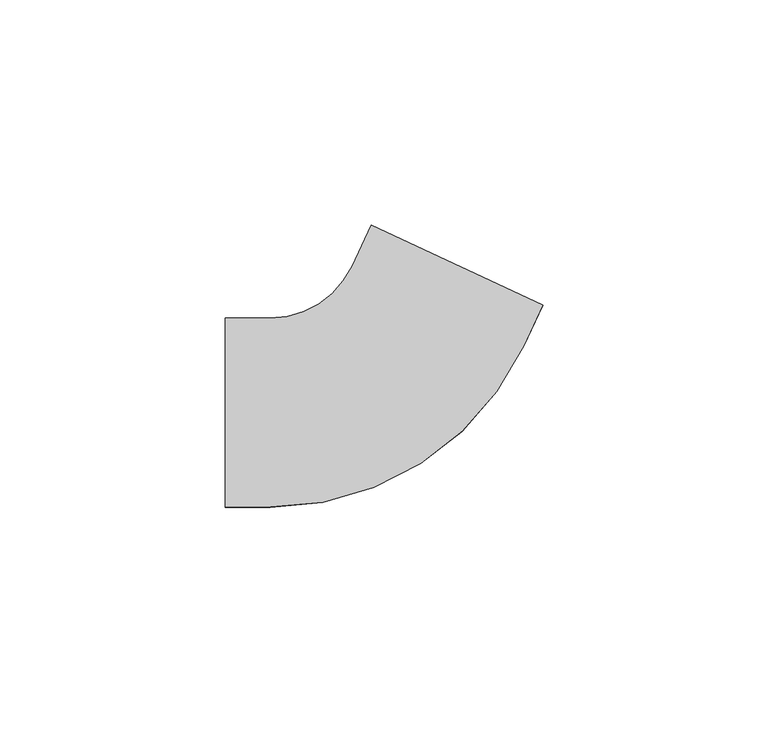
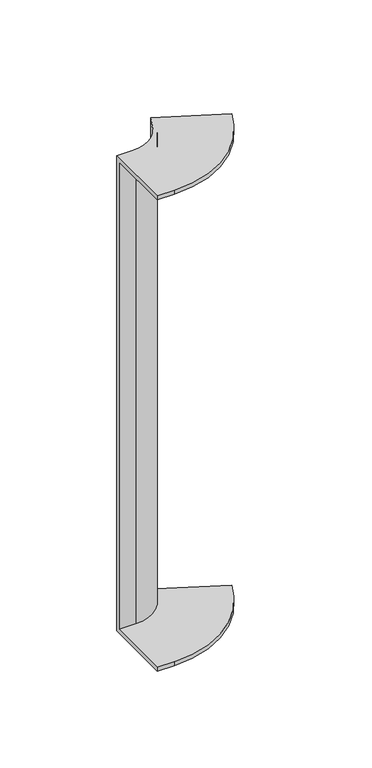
"""IFC4 building model written with IfcOpenShell, lengths in millimetres: cable carrier fitting geometry, BAKS_Articulated_connector : LGJ_H42."""

from ifc_helpers import new_model, si_unit, frame, origin, place, context, project, spatial, polyline, circle_curve, source, transform, mapped, element, save
from ifc_brep_helpers import plane_surface, cylinder_surface, revolved_surface, advanced_brep


def cable_carrier_fitting_47b1af77(model_context):
    return source(origin(), model_context, "Body", "AdvancedBrep", [
        advanced_brep(
        [(-36.1198807, -21.0, 150.0), (-36.1198807, 21.0, 150.0), (-36.1198807, 21.0, -150.0), (-36.1198807, -21.0, -150.0), (-36.1198807, -21.0, -147.46), (-36.1198807, 18.46, -147.46), (-36.1198807, 18.46, 147.46), (-36.1198807, -21.0, 147.46), (34.2973847, 23.8607456, 150.0), (34.2973847, 23.8607456, 147.46), (-1.4655206, 40.5372623, 147.46), (-1.4655206, 40.5372623, -147.46), (34.2973847, 23.8607456, -147.46), (34.2973847, 23.8607456, -150.0), (-3.7675423, 41.6107126, -150.0), (-3.7675423, 41.6107126, 150.0), (-26.1198807, -21.0, 150.0), (30.0712021, 14.7976678, 150.0), (-7.993725, 32.5476348, 150.0), (-26.1198807, 21.0, 150.0), (-26.1198807, 21.0, -150.0), (-7.993725, 32.5476348, -150.0), (30.0712021, 14.7976678, -150.0), (-26.1198807, -21.0, -150.0), (-26.1198807, -21.0, -147.46), (30.0712021, 14.7976678, -147.46), (-5.6917032, 31.4741844, -147.46), (-26.1198807, 18.46, -147.46), (-26.1198807, 18.46, 147.46), (-5.6917032, 31.4741844, 147.46), (30.0712021, 14.7976678, 147.46), (-26.1198807, -21.0, 147.46)],
        [
            (0, 1),
            (1, 2),
            (2, 3),
            (3, 4),
            (4, 5),
            (5, 6),
            (6, 7),
            (7, 0),
            (8, 9),
            (9, 10),
            (10, 11),
            (11, 12),
            (12, 13),
            (13, 14),
            (14, 15),
            (15, 8),
            (0, 16),
            (16, 17, circle_curve(frame((-26.1198807, 41.0, 150.0), z_axis=(0.0, 0.0, 1.0), x_axis=(0.0, -1.0, 0.0)), 62.0)),
            (17, 8),
            (15, 18),
            (18, 19, circle_curve(frame((-26.1198807, 41.0, 150.0), z_axis=(0.0, 0.0, -1.0), x_axis=(0.0, -1.0, 0.0)), 20.0)),
            (19, 1),
            (19, 20),
            (20, 2),
            (20, 21, circle_curve(frame((-26.1198807, 41.0, -150.0), z_axis=(0.0, 0.0, 1.0), x_axis=(0.0, -1.0, 0.0)), 20.0)),
            (21, 14),
            (13, 22),
            (22, 23, circle_curve(frame((-26.1198807, 41.0, -150.0), z_axis=(0.0, 0.0, -1.0), x_axis=(0.0, -1.0, 0.0)), 62.0)),
            (23, 3),
            (23, 24),
            (24, 4),
            (24, 25, circle_curve(frame((-26.1198807, 41.0, -147.46), z_axis=(0.0, 0.0, 1.0), x_axis=(0.0, -1.0, 0.0)), 62.0)),
            (25, 12),
            (11, 26),
            (26, 27, circle_curve(frame((-26.1198807, 41.0, -147.46), z_axis=(0.0, 0.0, -1.0), x_axis=(0.0, -1.0, 0.0)), 22.54)),
            (27, 5),
            (27, 28),
            (28, 6),
            (28, 29, circle_curve(frame((-26.1198807, 41.0, 147.46), z_axis=(0.0, 0.0, 1.0), x_axis=(0.0, -1.0, 0.0)), 22.54)),
            (29, 10),
            (9, 30),
            (30, 31, circle_curve(frame((-26.1198807, 41.0, 147.46), z_axis=(0.0, 0.0, -1.0), x_axis=(0.0, -1.0, 0.0)), 62.0)),
            (31, 7),
            (31, 16),
            (18, 21),
            (22, 25),
            (26, 29),
            (30, 17),
        ],
        [
            plane_surface(frame((-36.1198807, 0.0, 0.0), z_axis=(-1.0, 0.0, 0.0), x_axis=(0.0, 0.0, 1.0))),
            plane_surface(frame((15.2649212, 32.7357291, 0.0), z_axis=(0.42261826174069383, 0.9063077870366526, 0.0), x_axis=(0.0, 0.0, 1.0))),
            plane_surface(frame((-36.1198807, -21.0, 150.0), z_axis=(0.0, 0.0, 1.0), x_axis=(1.0, 0.0, 0.0))),
            plane_surface(frame((-36.1198807, 21.0, 150.0), z_axis=(0.0, 1.0, 0.0), x_axis=(1.0, 0.0, 0.0))),
            plane_surface(frame((-36.1198807, 21.0, -150.0), z_axis=(0.0, 0.0, -1.0), x_axis=(1.0, 0.0, 0.0))),
            plane_surface(frame((-36.1198807, -21.0, -150.0), z_axis=(0.0, -1.0, 0.0), x_axis=(1.0, 0.0, 0.0))),
            plane_surface(frame((-36.1198807, -21.0, -147.46), z_axis=(0.0, 0.0, 1.0), x_axis=(1.0, 0.0, 0.0))),
            plane_surface(frame((-36.1198807, 18.46, -147.46), z_axis=(0.0, -1.0, 0.0), x_axis=(1.0, 0.0, 0.0))),
            plane_surface(frame((-36.1198807, 18.46, 147.46), z_axis=(0.0, 0.0, -1.0), x_axis=(1.0, 0.0, 0.0))),
            plane_surface(frame((-36.1198807, -21.0, 147.46), z_axis=(0.0, -1.0, 0.0), x_axis=(1.0, 0.0, 0.0))),
            revolved_surface(polyline([(-26.1198807, 21.0, 150.0), (-26.1198807, 21.0, -150.0)]), (-26.1198807, 41.0, 0.0), (0.0, 0.0, 1.0)),
            cylinder_surface(frame((-26.1198807, 41.0, 0.0), z_axis=(0.0, 0.0, 1.0), x_axis=(0.0, -1.0, 0.0)), 62.0),
            cylinder_surface(frame((-26.1198807, 41.0, 0.0), z_axis=(0.0, 0.0, 1.0), x_axis=(0.0, -1.0, 0.0)), 22.54),
            plane_surface(frame((-7.993725, 32.5476348, 150.0), z_axis=(-0.9063077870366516, 0.4226182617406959, 0.0), x_axis=(0.4226182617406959, 0.9063077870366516, 0.0))),
            plane_surface(frame((30.0712021, 14.7976678, -150.0), z_axis=(0.9063077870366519, -0.4226182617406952, 0.0), x_axis=(0.4226182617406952, 0.9063077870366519, 0.0))),
            plane_surface(frame((-5.6917032, 31.4741844, -147.46), z_axis=(0.9063077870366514, -0.42261826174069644, 0.0), x_axis=(0.42261826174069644, 0.9063077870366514, 0.0))),
            plane_surface(frame((30.0712021, 14.7976678, 147.46), z_axis=(0.9063077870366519, -0.4226182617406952, 0.0), x_axis=(0.4226182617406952, 0.9063077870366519, 0.0))),
        ],
        [
            (0, [[1, 2, 3, 4, 5, 6, 7, 8]]),
            (1, [[9, 10, 11, 12, 13, 14, 15, 16]]),
            (2, [[-1, 17, 18, 19, -16, 20, 21, 22]]),
            (3, [[-2, -22, 23, 24]]),
            (4, [[-3, -24, 25, 26, -14, 27, 28, 29]]),
            (5, [[-4, -29, 30, 31]]),
            (6, [[-5, -31, 32, 33, -12, 34, 35, 36]]),
            (7, [[-6, -36, 37, 38]]),
            (8, [[-7, -38, 39, 40, -10, 41, 42, 43]]),
            (9, [[-8, -43, 44, -17]]),
            (10, [[-25, -23, -21, 45]]),
            (11, [[-32, -30, -28, 46]]),
            (12, [[-39, -37, -35, 47]]),
            (11, [[-18, -44, -42, 48]]),
            (13, [[-45, -20, -15, -26]]),
            (14, [[-46, -27, -13, -33]]),
            (15, [[-47, -34, -11, -40]]),
            (16, [[-48, -41, -9, -19]]),
        ],
    ),
    ])


if __name__ == "__main__":
    model = new_model("IFC4")
    model_context = context("Model", 3, world=origin())
    ifc_project = project(units=[si_unit("LENGTHUNIT", "METRE", prefix="MILLI")], contexts=[model_context])
    site = spatial("IfcSite", under=ifc_project)
    building = spatial("IfcBuilding", under=site)
    placement = place(None, origin())
    cable_carrier_fitting_shape = cable_carrier_fitting_47b1af77(model_context)
    element("IfcCableCarrierFitting", 1, ObjectType="BAKS_Articulated_connector : LGJ_H42", at=placement, inside=building, context=model_context, shape_type="MappedRepresentation", body=[
        mapped(cable_carrier_fitting_shape, transform((0.0, 0.0, 0.0), x_axis=(1.0, 0.0, 0.0), y_axis=(0.0, 1.0, 0.0), z_axis=(0.0, 0.0, 1.0))),
    ])
    save(model, "model.ifc")
